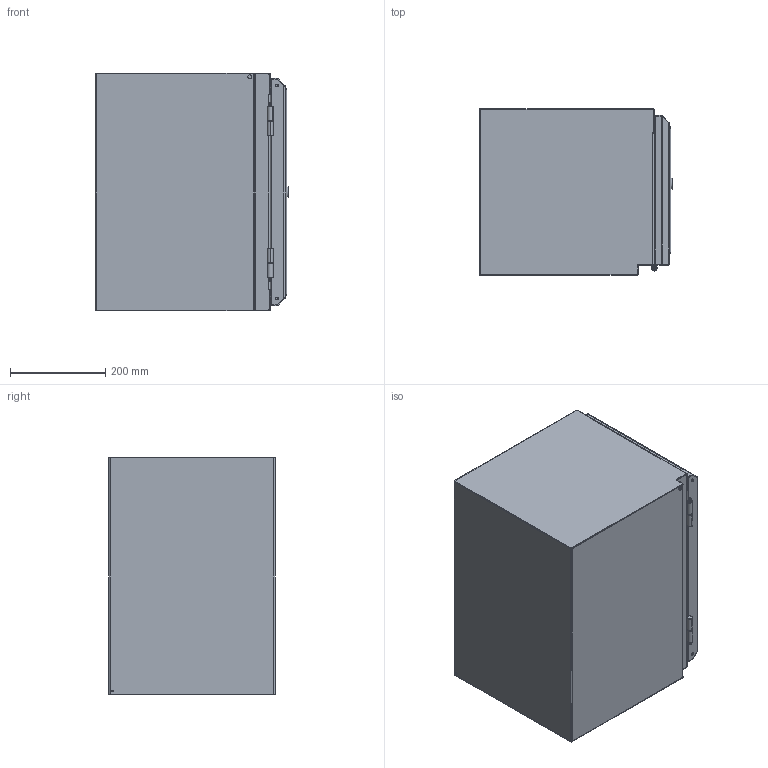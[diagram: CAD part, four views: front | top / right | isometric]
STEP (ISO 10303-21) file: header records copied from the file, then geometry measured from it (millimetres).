
FILE_DESCRIPTION (( 'STEP AP203' ), '1' );
FILE_NAME ('RlF-Reid & Twiname-Beveled Lid Tool Box-L500xH350xD400 (3D-VIEW)_Rev 9.STEP', '2021-12-08T08:59:01', ( '' ), ( '' ), 'SwSTEP 2.0', 'SolidWorks 2021', '' );
FILE_SCHEMA (( 'CONFIG_CONTROL_DESIGN' ));
Length unit declared in the file: millimetre
Products named in the file (18): BACKING PLATE 1; Grease nipple M6; LID_3; LEFT END_2B; Part 2  of Barrel hinge; RlF-Reid & Twiname-Beveled Lid Tool Box-L500xH350xD400 (3D-VIEW)_Rev 9; Washer Brass M6_Washer ISO 7090 - 6; BODY_1; RIGHT END_2A; Warning lable; STEEL RECTANGULAR PLATE_4; RUBBER SEAL; Ass Barrel hinge for TB Steel; key base; Part 1 of Barrel hinge; LABLE; STEEL SQUARE PLATE_5; BACKING PLATE
Assembly tree (20 placements, depth 3):
  RlF-Reid & Twiname-Beveled Lid Tool Box-L500xH350xD400 (3D-VIEW)_Rev 9
    BODY_1
    RIGHT END_2A
    LEFT END_2B
    LID_3
    STEEL RECTANGULAR PLATE_4
    STEEL SQUARE PLATE_5
    key base
    BACKING PLATE  x2
    RUBBER SEAL
    BACKING PLATE 1  x2
    LABLE
    Ass Barrel hinge for TB Steel  x2
      Part 1 of Barrel hinge
      Part 2  of Barrel hinge
      Grease nipple M6
      Washer Brass M6_Washer ISO 7090 - 6
    Warning lable
Bounding box: 407 x 350 x 500 mm (x, y, z)
Volume: 1837559.2 mm3; surface area: 2480258.2 mm2
Topology: 23 solids, 45 shells, 1785 faces, 4517 edges, 2855 vertices
Faces by surface type: plane 865, cylinder 420, bspline 388, torus 55, cone 34, sphere 23
Entity records: 78419 total; most frequent: CARTESIAN_POINT 38392, ORIENTED_EDGE 8361, DIRECTION 6699, EDGE_CURVE 4332, VERTEX_POINT 2753, VECTOR 2531, LINE 2531, AXIS2_PLACEMENT_3D 2084
